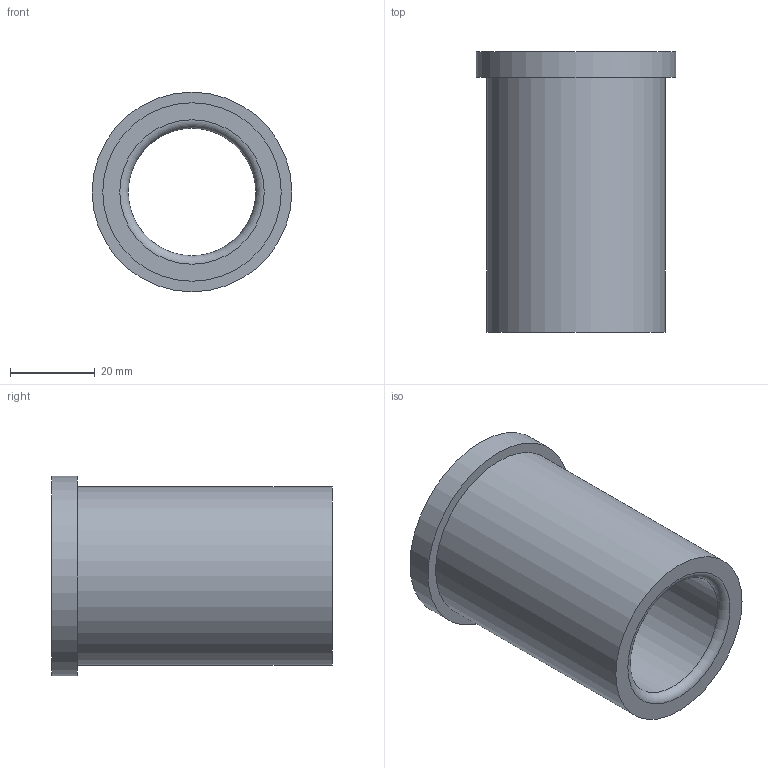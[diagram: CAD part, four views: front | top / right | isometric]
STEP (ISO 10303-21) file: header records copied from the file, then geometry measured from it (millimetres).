
FILE_DESCRIPTION(/* description */ ('STEP AP214'),/* implementation_level */ '2;1');
FILE_NAME(/* name */ '03_12_17855',/* time_stamp */ '2023-06-15T11:35:38+02:00',/* author */ ('License CC BY-ND 4.0'),/* organization */ ('CADENAS'),/* preprocessor_version */ 'ST-DEVELOPER v19.3',/* originating_system */ 'PARTsolutions',/* authorisation */ ' ');
FILE_SCHEMA (('AUTOMOTIVE_DESIGN {1 0 10303 214 3 1 1}'));
Length unit declared in the file: millimetre
Products named in the file (1): VA_Bushing_17855
Bounding box: 47 x 66 x 47 mm (x, y, z)
Volume: 46338.4 mm3; surface area: 16944.3 mm2
Topology: 1 solids, 1 shells, 10 faces, 16 edges, 10 vertices
Faces by surface type: cylinder 4, plane 4, torus 2
Full cylindrical faces by diameter (mm): 30 x1, 30.6 x1, 42 x1, 47 x1
Entity records: 302 total; most frequent: DIRECTION 42, CARTESIAN_POINT 31, AXIS2_PLACEMENT_3D 21, ORIENTED_EDGE 20, EDGE_LOOP 20, FACE_BOUND 20, EDGE_CURVE 10, VERTEX_POINT 10
